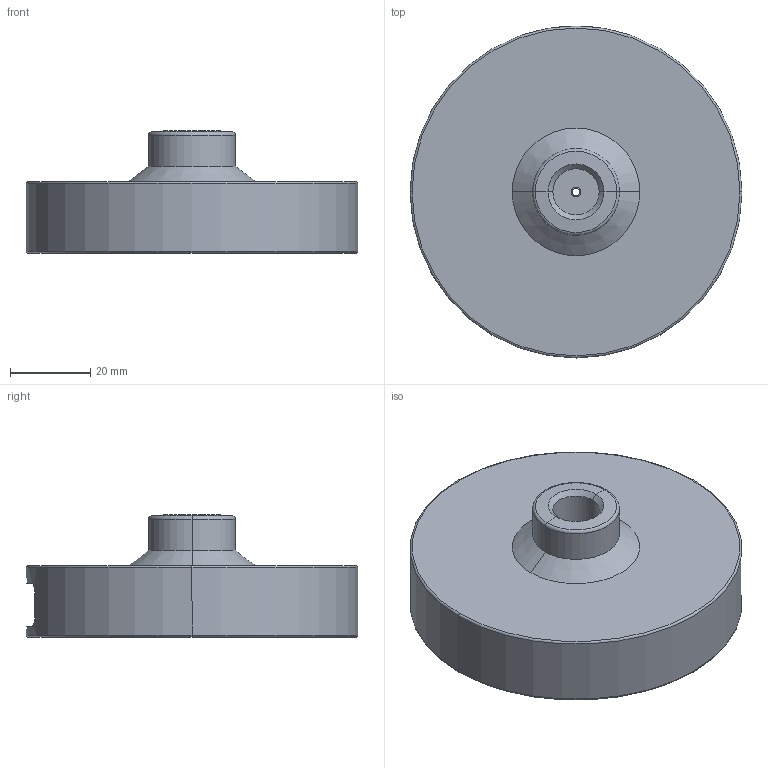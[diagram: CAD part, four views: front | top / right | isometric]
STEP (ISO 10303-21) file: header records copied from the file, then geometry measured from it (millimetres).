
FILE_DESCRIPTION (( 'STEP AP203' ), '1' );
FILE_NAME ('iLoad Pro (upto 2500# - for Web).STEP', '2013-02-04T20:55:12', ( '' ), ( '' ), 'SwSTEP 2.0', 'SolidWorks 2009', '' );
FILE_SCHEMA (( 'CONFIG_CONTROL_DESIGN' ));
Length unit declared in the file: inch
Products named in the file (1): iLoad Pro (upto 2500# - for Web)
Bounding box: 82.55 x 82.55 x 30.39 mm (x, y, z)
Surface area: 20671.4 mm2 (no closed solid volume)
Topology: 0 solids, 2 shells, 161 faces, 416 edges, 268 vertices
Faces by surface type: cylinder 80, cone 48, plane 23, torus 8, sphere 2
Entity records: 5133 total; most frequent: DIRECTION 981, CARTESIAN_POINT 920, ORIENTED_EDGE 746, EDGE_CURVE 416, AXIS2_PLACEMENT_3D 409, VERTEX_POINT 268, CIRCLE 247, EDGE_LOOP 204
